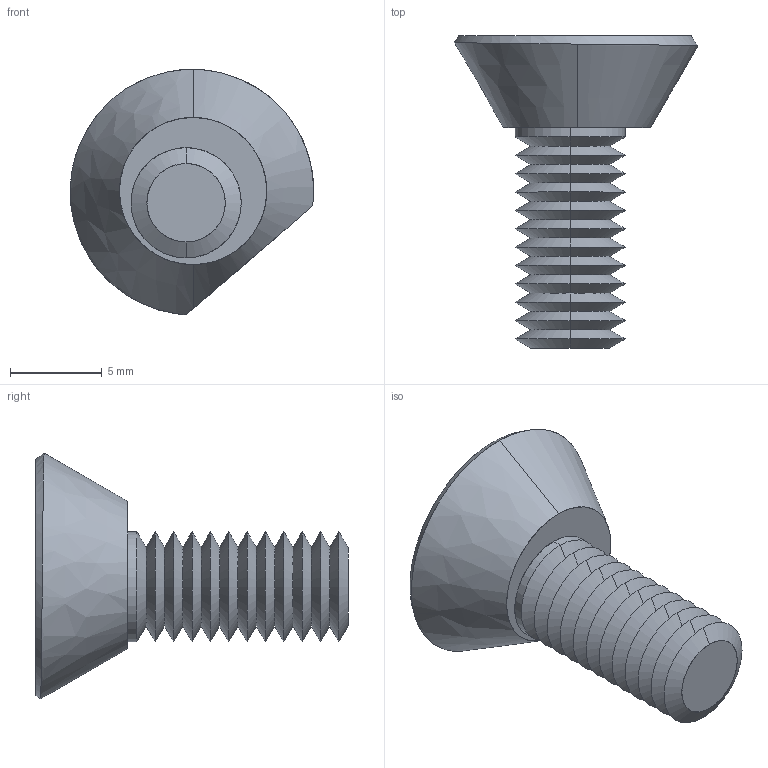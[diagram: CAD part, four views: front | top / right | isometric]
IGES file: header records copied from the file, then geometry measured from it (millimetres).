
Start section: SolidWorks IGES file using analytic representation for surfaces
Global section: file name: C:\Users\IanO\Desktop\Temp File\General\12111_v2\12111_v2_20180517_IGES\Default.igs; native system: SolidWorks 2017; preprocessor: SolidWorks 2017; author: IanO; date: 180522.151845; units: millimetre
Bounding box: 13.26 x 17 x 13.37 mm (x, y, z)
Surface area: 785.6 mm2 (no closed solid volume)
Topology: 0 solids, 0 shells, 75 faces, 568 edges, 566 vertices
Faces by surface type: revolution 58, bspline 17
